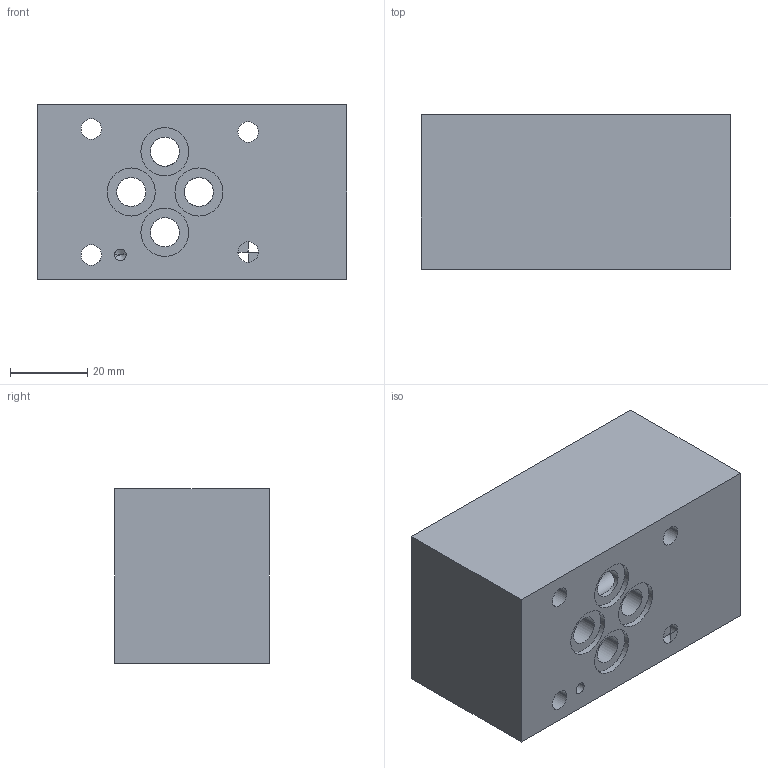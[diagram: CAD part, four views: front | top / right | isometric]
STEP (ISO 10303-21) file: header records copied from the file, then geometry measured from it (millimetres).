
FILE_DESCRIPTION((''),'2;1');
FILE_NAME('1000391431','2023-10-12T',('l.soukupova'),(''),'PRO/ENGINEER BY PARAMETRIC TECHNOLOGY CORPORATION, 2015440','PRO/ENGINEER BY PARAMETRIC TECHNOLOGY CORPORATION, 2015440','');
FILE_SCHEMA(('AUTOMOTIVE_DESIGN { 1 0 10303 214 1 1 1 1 }'));
Length unit declared in the file: millimetre
Products named in the file (1): 1000391431
Bounding box: 80 x 40 x 45 mm (x, y, z)
Volume: 119702.8 mm3; surface area: 27588.2 mm2
Topology: 1 solids, 4 shells, 98 faces, 406 edges, 368 vertices
Faces by surface type: cylinder 54, cone 30, plane 14
Entity records: 6765 total; most frequent: CARTESIAN_POINT 1690, DIRECTION 726, ORIENTED_EDGE 508, PRESENTATION_STYLE_ASSIGNMENT 475, STYLED_ITEM 444, CURVE_STYLE 439, EDGE_CURVE 260, AXIS2_PLACEMENT_3D 259
